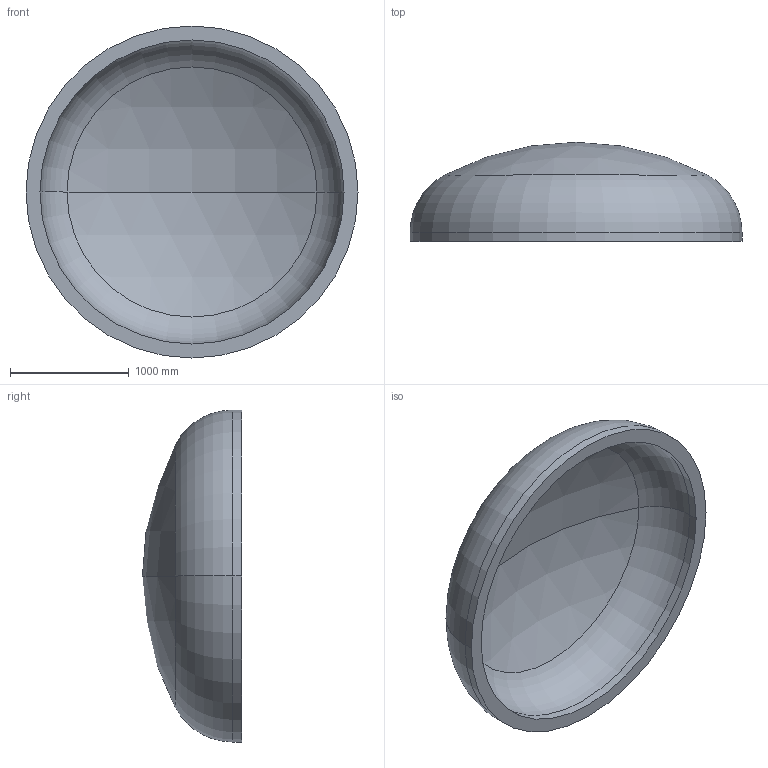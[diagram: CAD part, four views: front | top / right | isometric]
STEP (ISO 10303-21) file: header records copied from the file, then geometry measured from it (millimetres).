
FILE_DESCRIPTION (( 'STEP AP203' ), '1' );
FILE_NAME ('DIN 28013 Korbbogenform_-_Boden DIN 28013 - 2800 x 75 - I - s=118.step', '2016-07-01T17:23:08', ( '' ), ( '' ), 'SwSTEP 2.0', 'SolidWorks 2013', '' );
FILE_SCHEMA (( 'CONFIG_CONTROL_DESIGN' ));
Length unit declared in the file: millimetre
Products named in the file (1): DIN 28013 Korbbogenform_-_Boden DIN 28013 - 2800 x 75 - I - s=118
Bounding box: 2800 x 836.07 x 2800 mm (x, y, z)
Volume: 1026958963.7 mm3; surface area: 18429479.8 mm2
Topology: 1 solids, 1 shells, 13 faces, 24 edges, 14 vertices
Faces by surface type: torus 4, cylinder 4, sphere 4, plane 1
Entity records: 407 total; most frequent: DIRECTION 72, CARTESIAN_POINT 52, ORIENTED_EDGE 48, AXIS2_PLACEMENT_3D 34, EDGE_CURVE 24, CIRCLE 20, EDGE_LOOP 14, VERTEX_POINT 14
